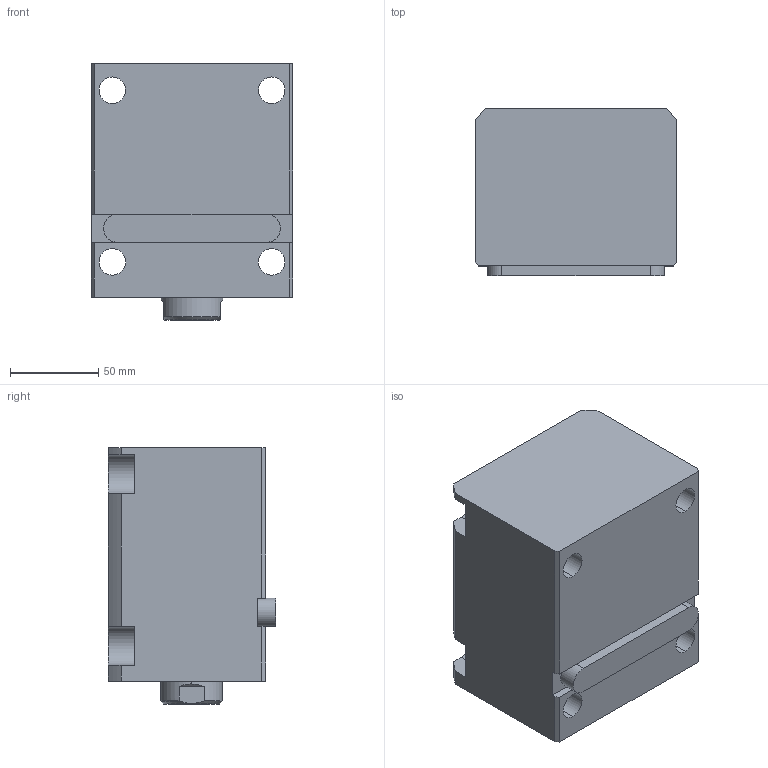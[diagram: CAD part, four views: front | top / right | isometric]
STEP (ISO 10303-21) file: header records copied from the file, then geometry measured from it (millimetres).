
FILE_DESCRIPTION (( 'STEP AP214' ), '1' );
FILE_NAME ('chtb-la63x65_asm.STEP', '2018-05-02T03:47:41', ( 'Windows' ), ( 'Microsoft' ), 'SwSTEP 2.0', 'SolidWorks 2015', '' );
FILE_SCHEMA (( 'AUTOMOTIVE_DESIGN' ));
Length unit declared in the file: millimetre
Products named in the file (5): CHTB-LA63X65NBT; CHTB-LA63PJ; CHTB63X65NHSG; CHTB-63QG; chtb-la63x65_asm
Assembly tree (4 placements, depth 2):
  chtb-la63x65_asm
    CHTB-63QG
    CHTB63X65NHSG
    CHTB-LA63PJ
    CHTB-LA63X65NBT
Bounding box: 114 x 94.5 x 145 mm (x, y, z)
Volume: 1121022.7 mm3; surface area: 162745.9 mm2
Topology: 4 solids, 4 shells, 174 faces, 510 edges, 348 vertices
Faces by surface type: cylinder 98, plane 45, bspline 12, cone 12, torus 7
Entity records: 18199 total; most frequent: CARTESIAN_POINT 13678, ORIENTED_EDGE 1008, DIRECTION 778, EDGE_CURVE 504, VERTEX_POINT 348, AXIS2_PLACEMENT_3D 295, EDGE_LOOP 198, VECTOR 188
